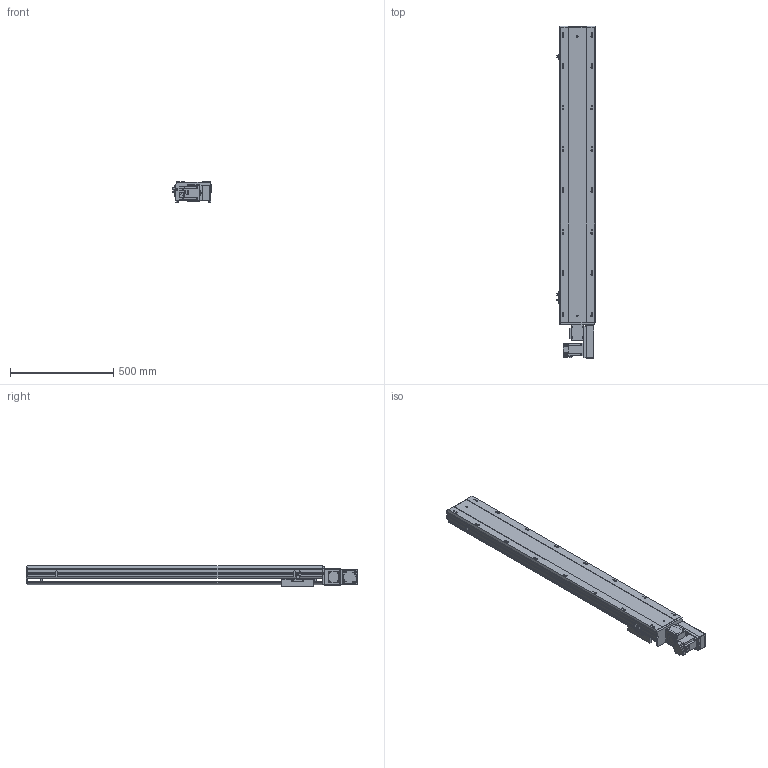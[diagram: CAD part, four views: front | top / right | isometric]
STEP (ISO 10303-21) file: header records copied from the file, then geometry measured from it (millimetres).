
FILE_DESCRIPTION (( 'STEP AP203' ), '1' );
FILE_NAME ('BTB17-L40-1150-L-M40-C4.STEP', '2022-07-20T02:57:20', ( 'CXY' ), ( 'BT' ), 'SwSTEP 2.0', 'SolidWorks 2016', '' );
FILE_SCHEMA (( 'CONFIG_CONTROL_DESIGN' ));
Length unit declared in the file: millimetre
Products named in the file (11): BTB17-L-HZ; BTB17-L-23; FS-08-T40; BTB17-L40-1150-L-M40-C4; BTB17-L-菁釱_XD; BTB17-L-04; FS-07-T40(1); BTB17-L-01; BTB17-L-06; BTB17-L-24; M40
Assembly tree (13 placements, depth 2):
  BTB17-L40-1150-L-M40-C4
    BTB17-L-菁釱_XD
    BTB17-L-01
    BTB17-L-04  x3
    BTB17-L-06
    BTB17-L-23  x2
    BTB17-L-24
    BTB17-L-HZ
    FS-07-T40(1)
    FS-08-T40
    M40
Bounding box: 183.7 x 1604.5 x 97 mm (x, y, z)
Volume: 12984828.5 mm3; surface area: 1760892.7 mm2
Topology: 22 solids, 22 shells, 1633 faces, 4295 edges, 2722 vertices
Faces by surface type: plane 909, cylinder 536, cone 156, torus 16, bspline 16
Entity records: 42514 total; most frequent: CARTESIAN_POINT 8338, DIRECTION 6953, ORIENTED_EDGE 6734, EDGE_CURVE 3367, AXIS2_PLACEMENT_3D 2359, LINE 2235, VECTOR 2235, VERTEX_POINT 2190
